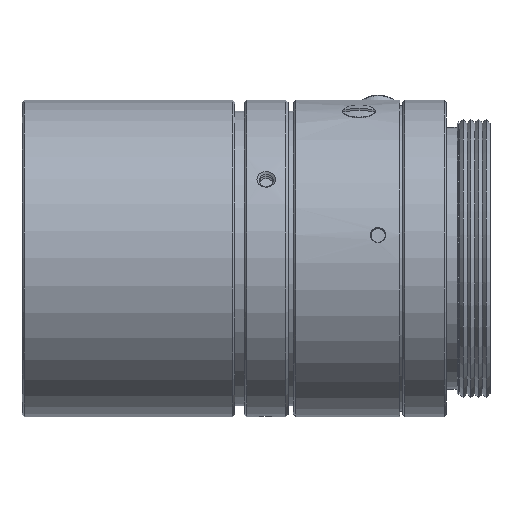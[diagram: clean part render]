
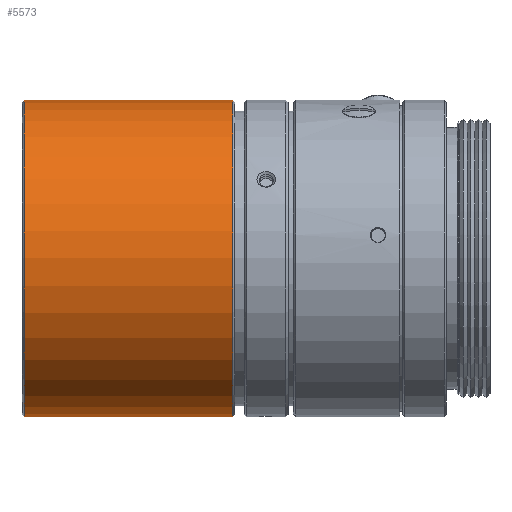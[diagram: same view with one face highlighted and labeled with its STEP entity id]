
A CAD part, front view. The second image highlights one B-rep face of the part: STEP entity #5573.
In plain terms, the highlighted cylindrical face has radius 14.5 mm (diameter 29 mm), a full revolution.
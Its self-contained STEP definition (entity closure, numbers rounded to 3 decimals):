
#268=LINE('',#8804,#633);
#633=VECTOR('',#6864,14.5);
#984=CYLINDRICAL_SURFACE('',#5966,14.5);
#1076=FACE_OUTER_BOUND('',#1397,.T.);
#1397=EDGE_LOOP('',(#3809,#3810,#3811,#3812,#3813,#3814));
#1767=CIRCLE('',#5964,14.5);
#1768=CIRCLE('',#5965,14.5);
#1769=CIRCLE('',#5967,14.5);
#1770=CIRCLE('',#5968,14.5);
#2248=VERTEX_POINT('',#8795);
#2249=VERTEX_POINT('',#8796);
#2250=VERTEX_POINT('',#8801);
#2251=VERTEX_POINT('',#8802);
#2866=EDGE_CURVE('',#2248,#2249,#1767,.T.);
#2868=EDGE_CURVE('',#2249,#2248,#1768,.T.);
#2869=EDGE_CURVE('',#2250,#2251,#1769,.T.);
#2870=EDGE_CURVE('',#2251,#2249,#268,.T.);
#2871=EDGE_CURVE('',#2251,#2250,#1770,.T.);
#3809=ORIENTED_EDGE('',*,*,#2869,.T.);
#3810=ORIENTED_EDGE('',*,*,#2870,.T.);
#3811=ORIENTED_EDGE('',*,*,#2866,.F.);
#3812=ORIENTED_EDGE('',*,*,#2868,.F.);
#3813=ORIENTED_EDGE('',*,*,#2870,.F.);
#3814=ORIENTED_EDGE('',*,*,#2871,.T.);
#5573=ADVANCED_FACE('',(#1076),#984,.T.);
#5964=AXIS2_PLACEMENT_3D('',#8797,#6855,#6856);
#5965=AXIS2_PLACEMENT_3D('',#8799,#6858,#6859);
#5966=AXIS2_PLACEMENT_3D('',#8800,#6860,#6861);
#5967=AXIS2_PLACEMENT_3D('',#8803,#6862,#6863);
#5968=AXIS2_PLACEMENT_3D('',#8805,#6865,#6866);
#6855=DIRECTION('center_axis',(1.,0.,0.));
#6856=DIRECTION('ref_axis',(0.,1.,0.));
#6858=DIRECTION('center_axis',(1.,0.,0.));
#6859=DIRECTION('ref_axis',(0.,1.,0.));
#6860=DIRECTION('center_axis',(-1.,0.,0.));
#6861=DIRECTION('ref_axis',(0.,1.,0.));
#6862=DIRECTION('center_axis',(1.,0.,0.));
#6863=DIRECTION('ref_axis',(0.,1.,0.));
#6864=DIRECTION('',(1.,0.,0.));
#6865=DIRECTION('center_axis',(1.,0.,0.));
#6866=DIRECTION('ref_axis',(0.,1.,0.));
#8795=CARTESIAN_POINT('',(-37.07,14.5,0.));
#8796=CARTESIAN_POINT('',(-37.07,-14.5,0.));
#8797=CARTESIAN_POINT('Origin',(-37.07,0.,0.));
#8799=CARTESIAN_POINT('Origin',(-37.07,0.,0.));
#8800=CARTESIAN_POINT('Origin',(-46.62,0.,0.));
#8801=CARTESIAN_POINT('',(-56.17,14.5,0.));
#8802=CARTESIAN_POINT('',(-56.17,-14.5,0.));
#8803=CARTESIAN_POINT('Origin',(-56.17,0.,0.));
#8804=CARTESIAN_POINT('',(-46.62,-14.5,0.));
#8805=CARTESIAN_POINT('Origin',(-56.17,0.,0.));
